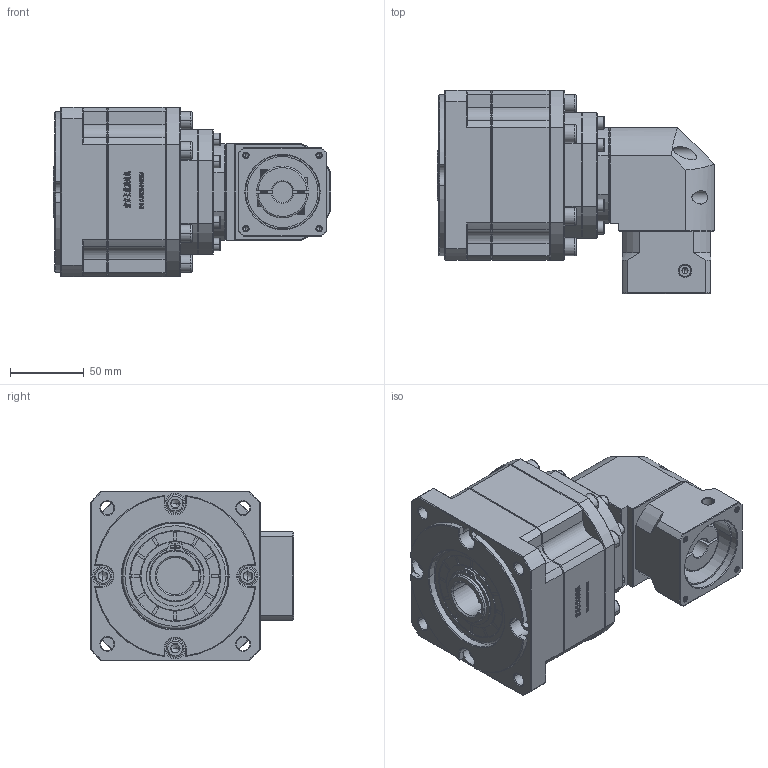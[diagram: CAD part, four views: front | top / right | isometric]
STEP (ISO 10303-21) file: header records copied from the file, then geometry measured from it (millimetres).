
FILE_DESCRIPTION (( 'STEP AP214' ), '1' );
FILE_NAME ('ZB115A-K25-L3-14-50-70-M4.step', '2023-03-03T08:05:41', ( '' ), ( 'Microsoft' ), 'SwSTEP 2.0', 'SolidWorks 2016', '' );
FILE_SCHEMA (( 'AUTOMOTIVE_DESIGN' ));
Length unit declared in the file: millimetre
Products named in the file (1): ZB115A-K25-L3-14-50-70-M4
Bounding box: 187.5 x 137.7 x 115 mm (x, y, z)
Volume: 1507352 mm3; surface area: 142549.4 mm2
Topology: 6 solids, 6 shells, 3175 faces, 8433 edges, 5420 vertices
Faces by surface type: plane 1712, bspline 628, cylinder 444, cone 383, torus 8
Entity records: 162840 total; most frequent: CARTESIAN_POINT 53681, ORIENTED_EDGE 16746, DIRECTION 13050, EDGE_CURVE 8373, LINE 5608, VECTOR 5608, VERTEX_POINT 5420, AXIS2_PLACEMENT_3D 3721
